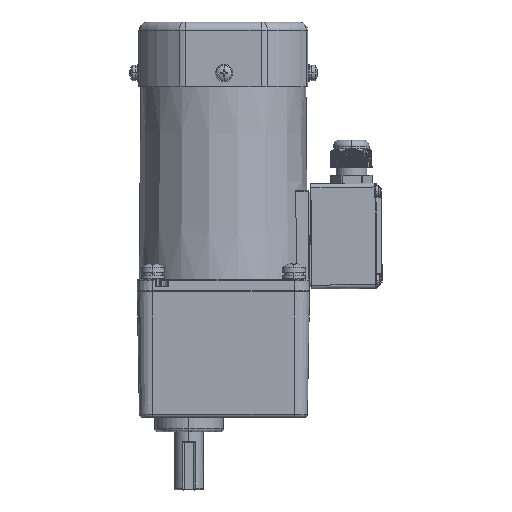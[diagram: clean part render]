
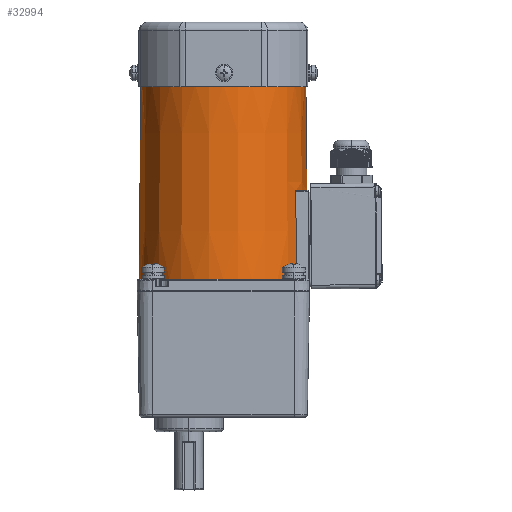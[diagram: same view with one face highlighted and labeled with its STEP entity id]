
A CAD part, front view. The second image highlights one B-rep face of the part: STEP entity #32994.
In plain terms, the highlighted conical face has half-angle 0.5 degrees and reference radius 43.555 mm.
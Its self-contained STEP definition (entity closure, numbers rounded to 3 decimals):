
#196 = DIRECTION ( 'NONE',  ( -1., 0., 0. ) ) ;
#372 = CARTESIAN_POINT ( 'NONE',  ( 38.038, -21.297, 53.5 ) ) ;
#1628 = CARTESIAN_POINT ( 'NONE',  ( 38.038, -21.297, 53.5 ) ) ;
#3569 = ORIENTED_EDGE ( 'NONE', *, *, #14815, .T. ) ;
#3857 = ORIENTED_EDGE ( 'NONE', *, *, #50347, .T. ) ;
#3898 = VERTEX_POINT ( 'NONE', #42247 ) ;
#4606 = DIRECTION ( 'NONE',  ( 0.873, -0.489, 0. ) ) ;
#5361 = VERTEX_POINT ( 'NONE', #8874 ) ;
#5743 = EDGE_LOOP ( 'NONE', ( #39765, #38921, #65785, #3857, #51079, #10105, #3569 ) ) ;
#6052 = LINE ( 'NONE', #43027, #44760 ) ;
#8874 = CARTESIAN_POINT ( 'NONE',  ( 43.11, 0., 109. ) ) ;
#8919 = CARTESIAN_POINT ( 'NONE',  ( 38.028, -21.866, 22.401 ) ) ;
#9053 = LINE ( 'NONE', #9394, #66034 ) ;
#9394 = CARTESIAN_POINT ( 'NONE',  ( 43.11, 0., 109. ) ) ;
#9610 = CARTESIAN_POINT ( 'NONE',  ( 0., 0., 109. ) ) ;
#10105 = ORIENTED_EDGE ( 'NONE', *, *, #14263, .T. ) ;
#10846 = CARTESIAN_POINT ( 'NONE',  ( -44., 0., 7. ) ) ;
#11023 = CARTESIAN_POINT ( 'NONE',  ( 37.886, -21.569, 53.35 ) ) ;
#11317 = EDGE_CURVE ( 'NONE', #63000, #61203, #53375, .T. ) ;
#14263 = EDGE_CURVE ( 'NONE', #61203, #26991, #16974, .T. ) ;
#14815 = EDGE_CURVE ( 'NONE', #26991, #3898, #19119, .T. ) ;
#15304 = DIRECTION ( 'NONE',  ( 0., 0., 1. ) ) ;
#16817 = CARTESIAN_POINT ( 'NONE',  ( 37.992, -21.379, 53.5 ) ) ;
#16974 = B_SPLINE_CURVE_WITH_KNOTS ( 'NONE', 3,
 ( #43500, #64338, #11023, #27081, #16817, #372 ),
 .UNSPECIFIED., .F., .F.,
 ( 4, 2, 4 ),
 ( 0., 0.5, 1. ),
 .UNSPECIFIED. ) ;
#17549 = DIRECTION ( 'NONE',  ( 1., 0., 0. ) ) ;
#19119 = CIRCLE ( 'NONE', #27870, 43.594 ) ;
#19178 = CARTESIAN_POINT ( 'NONE',  ( 38.105, -22., 7. ) ) ;
#19280 = CONICAL_SURFACE ( 'NONE', #61860, 43.555, 0.009 ) ;
#19698 = EDGE_CURVE ( 'NONE', #61986, #43942, #6052, .T. ) ;
#22673 = CARTESIAN_POINT ( 'NONE',  ( 0., 0., 58. ) ) ;
#24649 = CARTESIAN_POINT ( 'NONE',  ( 37.872, -21.597, 53.203 ) ) ;
#26991 = VERTEX_POINT ( 'NONE', #1628 ) ;
#27081 = CARTESIAN_POINT ( 'NONE',  ( 37.949, -21.457, 53.466 ) ) ;
#27870 = AXIS2_PLACEMENT_3D ( 'NONE', #46696, #31619, #4606 ) ;
#28697 = CIRCLE ( 'NONE', #44002, 44. ) ;
#29795 = CARTESIAN_POINT ( 'NONE',  ( 37.95, -21.731, 37.802 ) ) ;
#30274 = DIRECTION ( 'NONE',  ( 0.009, 0., -1. ) ) ;
#31619 = DIRECTION ( 'NONE',  ( 0., 0., 1. ) ) ;
#32994 = ADVANCED_FACE ( 'NONE', ( #48679 ), #19280, .T. ) ;
#35604 = DIRECTION ( 'NONE',  ( -1., 0., 0. ) ) ;
#38734 = AXIS2_PLACEMENT_3D ( 'NONE', #9610, #47230, #35604 ) ;
#38921 = ORIENTED_EDGE ( 'NONE', *, *, #63246, .F. ) ;
#39765 = ORIENTED_EDGE ( 'NONE', *, *, #52244, .F. ) ;
#42247 = CARTESIAN_POINT ( 'NONE',  ( 43.594, 0., 53.5 ) ) ;
#43027 = CARTESIAN_POINT ( 'NONE',  ( -43.11, 0., 109. ) ) ;
#43500 = CARTESIAN_POINT ( 'NONE',  ( 37.872, -21.597, 53.203 ) ) ;
#43942 = VERTEX_POINT ( 'NONE', #10846 ) ;
#44002 = AXIS2_PLACEMENT_3D ( 'NONE', #63164, #15304, #196 ) ;
#44760 = VECTOR ( 'NONE', #58398, 1000. ) ;
#46696 = CARTESIAN_POINT ( 'NONE',  ( 0., 0., 53.5 ) ) ;
#47230 = DIRECTION ( 'NONE',  ( 0., 0., 1. ) ) ;
#48679 = FACE_OUTER_BOUND ( 'NONE', #5743, .T. ) ;
#50347 = EDGE_CURVE ( 'NONE', #43942, #63000, #28697, .T. ) ;
#51036 = CARTESIAN_POINT ( 'NONE',  ( 37.872, -21.597, 53.203 ) ) ;
#51079 = ORIENTED_EDGE ( 'NONE', *, *, #11317, .T. ) ;
#52244 = EDGE_CURVE ( 'NONE', #5361, #3898, #9053, .T. ) ;
#53375 = B_SPLINE_CURVE_WITH_KNOTS ( 'NONE', 3,
 ( #19178, #8919, #29795, #24649 ),
 .UNSPECIFIED., .F., .F.,
 ( 4, 4 ),
 ( 0., 1. ),
 .UNSPECIFIED. ) ;
#58398 = DIRECTION ( 'NONE',  ( -0.009, 0., -1. ) ) ;
#59919 = CARTESIAN_POINT ( 'NONE',  ( -43.11, 0., 109. ) ) ;
#61203 = VERTEX_POINT ( 'NONE', #51036 ) ;
#61860 = AXIS2_PLACEMENT_3D ( 'NONE', #22673, #64390, #17549 ) ;
#61986 = VERTEX_POINT ( 'NONE', #59919 ) ;
#63000 = VERTEX_POINT ( 'NONE', #67552 ) ;
#63164 = CARTESIAN_POINT ( 'NONE',  ( 0., 0., 7. ) ) ;
#63246 = EDGE_CURVE ( 'NONE', #61986, #5361, #64932, .T. ) ;
#64338 = CARTESIAN_POINT ( 'NONE',  ( 37.872, -21.595, 53.283 ) ) ;
#64390 = DIRECTION ( 'NONE',  ( 0., 0., -1. ) ) ;
#64932 = CIRCLE ( 'NONE', #38734, 43.11 ) ;
#65785 = ORIENTED_EDGE ( 'NONE', *, *, #19698, .T. ) ;
#66034 = VECTOR ( 'NONE', #30274, 1000. ) ;
#67552 = CARTESIAN_POINT ( 'NONE',  ( 38.105, -22., 7. ) ) ;
